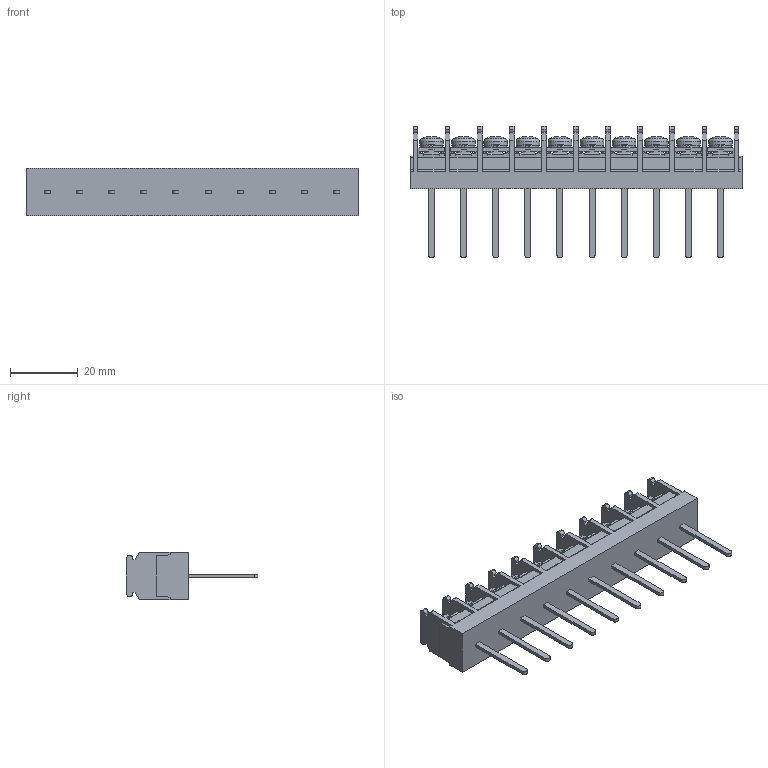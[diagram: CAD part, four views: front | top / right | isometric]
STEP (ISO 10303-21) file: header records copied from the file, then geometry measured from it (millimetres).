
FILE_DESCRIPTION(/* description */ ('Alibre Inc.'),/* implementation_level */ '2;1');
FILE_NAME(/* name */ 'export-67630A3A-24B0-47C1-9342-70486F2E3A55',/* time_stamp */ '2021-02-13T15:17:09+09:00',/* author */ (''),/* organization */ (''),/* preprocessor_version */ 'ST-DEVELOPER v17',/* originating_system */ 'Alibre',/* authorisation */ '');
FILE_SCHEMA (('CONFIG_CONTROL_DESIGN'));
Length unit declared in the file: millimetre
Bounding box: 98.2 x 39 x 14 mm (x, y, z)
Volume: 16946.1 mm3; surface area: 12182.3 mm2
Topology: 1 solids, 27 shells, 1560 faces, 4388 edges, 2882 vertices
Faces by surface type: plane 1160, cylinder 216, bspline 104, cone 50, torus 20, sphere 10
Full cylindrical faces by diameter (mm): 4 x20, 7 x10
Entity records: 47921 total; most frequent: CARTESIAN_POINT 9786, ORIENTED_EDGE 8616, DIRECTION 6324, EDGE_CURVE 4308, VECTOR 3128, LINE 3128, VERTEX_POINT 2862, AXIS2_PLACEMENT_3D 2148
